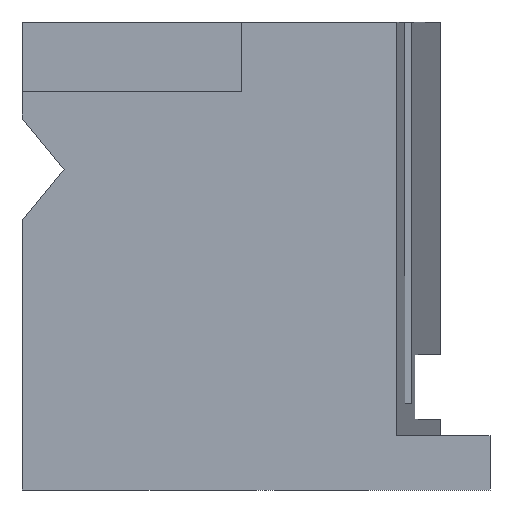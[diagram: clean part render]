
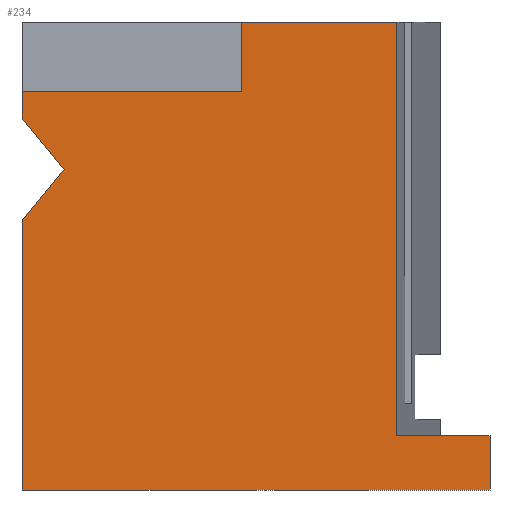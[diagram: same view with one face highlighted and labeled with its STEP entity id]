
A CAD part, left-side view. The second image highlights one B-rep face of the part: STEP entity #234.
In plain terms, the highlighted planar face has unit normal (-1, 0, 0).
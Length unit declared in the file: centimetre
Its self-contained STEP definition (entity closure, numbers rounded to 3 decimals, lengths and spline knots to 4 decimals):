
#30 = CARTESIAN_POINT ( 'NONE',  ( 0., 1000., 0. ) ) ;
#53 = ORIENTED_EDGE ( 'NONE', *, *, #885, .F. ) ;
#63 = CARTESIAN_POINT ( 'NONE',  ( 0., 0., 0. ) ) ;
#72 = CARTESIAN_POINT ( 'NONE',  ( 0., 910.1829, 685.2639 ) ) ;
#84 = VERTEX_POINT ( 'NONE', #400 ) ;
#94 = VERTEX_POINT ( 'NONE', #1166 ) ;
#98 = EDGE_CURVE ( 'NONE', #484, #1099, #314, .T. ) ;
#137 = EDGE_CURVE ( 'NONE', #786, #211, #942, .T. ) ;
#138 = CARTESIAN_POINT ( 'NONE',  ( 0., 530.7815, 852.1744 ) ) ;
#140 = ORIENTED_EDGE ( 'NONE', *, *, #137, .T. ) ;
#156 = DIRECTION ( 'NONE',  ( 0., -1., 0. ) ) ;
#158 = ORIENTED_EDGE ( 'NONE', *, *, #1028, .T. ) ;
#160 = LINE ( 'NONE', #600, #370 ) ;
#193 = CARTESIAN_POINT ( 'NONE',  ( 0., 1000., 1000. ) ) ;
#201 = ORIENTED_EDGE ( 'NONE', *, *, #622, .T. ) ;
#206 = LINE ( 'NONE', #30, #567 ) ;
#211 = VERTEX_POINT ( 'NONE', #375 ) ;
#218 = VERTEX_POINT ( 'NONE', #227 ) ;
#221 = VECTOR ( 'NONE', #475, 100. ) ;
#227 = CARTESIAN_POINT ( 'NONE',  ( 0., 1000., 0. ) ) ;
#234 = ADVANCED_FACE ( 'NONE', ( #1153 ), #1158, .F. ) ;
#244 = DIRECTION ( 'NONE',  ( 0., 0.635, -0.773 ) ) ;
#254 = LINE ( 'NONE', #625, #1007 ) ;
#272 = EDGE_CURVE ( 'NONE', #1156, #94, #1082, .T. ) ;
#281 = CARTESIAN_POINT ( 'NONE',  ( 0., 530.7815, 1000. ) ) ;
#307 = VERTEX_POINT ( 'NONE', #326 ) ;
#312 = LINE ( 'NONE', #316, #651 ) ;
#314 = LINE ( 'NONE', #1154, #1005 ) ;
#316 = CARTESIAN_POINT ( 'NONE',  ( 0., 199.0538, 115.8178 ) ) ;
#323 = LINE ( 'NONE', #621, #890 ) ;
#326 = CARTESIAN_POINT ( 'NONE',  ( 0., 1000., 575.9463 ) ) ;
#338 = VECTOR ( 'NONE', #244, 100. ) ;
#364 = ORIENTED_EDGE ( 'NONE', *, *, #1114, .T. ) ;
#370 = VECTOR ( 'NONE', #532, 100. ) ;
#375 = CARTESIAN_POINT ( 'NONE',  ( 0., 1000., 794.5816 ) ) ;
#390 = DIRECTION ( 'NONE',  ( 0., -1., 0. ) ) ;
#398 = DIRECTION ( 'NONE',  ( 0., 0., 1. ) ) ;
#400 = CARTESIAN_POINT ( 'NONE',  ( 0., 530.7815, 852.1744 ) ) ;
#425 = DIRECTION ( 'NONE',  ( 1., 0., 0. ) ) ;
#432 = DIRECTION ( 'NONE',  ( 0., 0., -1. ) ) ;
#475 = DIRECTION ( 'NONE',  ( 0., 0., -1. ) ) ;
#484 = VERTEX_POINT ( 'NONE', #639 ) ;
#531 = CARTESIAN_POINT ( 'NONE',  ( 0., 1000., 1000. ) ) ;
#532 = DIRECTION ( 'NONE',  ( 0., 1., 0. ) ) ;
#546 = VERTEX_POINT ( 'NONE', #72 ) ;
#562 = ORIENTED_EDGE ( 'NONE', *, *, #863, .F. ) ;
#566 = EDGE_LOOP ( 'NONE', ( #158, #364, #1127, #1043, #740, #562, #924, #1087, #53, #201, #140 ) ) ;
#567 = VECTOR ( 'NONE', #765, 100. ) ;
#589 = LINE ( 'NONE', #138, #861 ) ;
#595 = EDGE_CURVE ( 'NONE', #682, #94, #323, .T. ) ;
#600 = CARTESIAN_POINT ( 'NONE',  ( 0., 530.7815, 852.1744 ) ) ;
#621 = CARTESIAN_POINT ( 'NONE',  ( 0., 199.0538, 115.8178 ) ) ;
#622 = EDGE_CURVE ( 'NONE', #84, #786, #160, .T. ) ;
#625 = CARTESIAN_POINT ( 'NONE',  ( 0., 1000., 1000. ) ) ;
#639 = CARTESIAN_POINT ( 'NONE',  ( 0., 0., 115.8178 ) ) ;
#651 = VECTOR ( 'NONE', #390, 100. ) ;
#668 = VECTOR ( 'NONE', #156, 100. ) ;
#682 = VERTEX_POINT ( 'NONE', #982 ) ;
#703 = CARTESIAN_POINT ( 'NONE',  ( 0., 1000., 575.9463 ) ) ;
#740 = ORIENTED_EDGE ( 'NONE', *, *, #98, .F. ) ;
#765 = DIRECTION ( 'NONE',  ( 0., -1., 0. ) ) ;
#779 = DIRECTION ( 'NONE',  ( 0., 0., -1. ) ) ;
#786 = VERTEX_POINT ( 'NONE', #906 ) ;
#861 = VECTOR ( 'NONE', #398, 100. ) ;
#863 = EDGE_CURVE ( 'NONE', #682, #484, #312, .T. ) ;
#878 = CARTESIAN_POINT ( 'NONE',  ( 0., 910.1829, 685.2639 ) ) ;
#880 = LINE ( 'NONE', #703, #338 ) ;
#885 = EDGE_CURVE ( 'NONE', #84, #1156, #589, .T. ) ;
#890 = VECTOR ( 'NONE', #990, 100. ) ;
#906 = CARTESIAN_POINT ( 'NONE',  ( 0., 1000., 852.1744 ) ) ;
#911 = EDGE_CURVE ( 'NONE', #218, #1099, #206, .T. ) ;
#924 = ORIENTED_EDGE ( 'NONE', *, *, #595, .T. ) ;
#942 = LINE ( 'NONE', #193, #221 ) ;
#982 = CARTESIAN_POINT ( 'NONE',  ( 0., 199.0538, 115.8178 ) ) ;
#990 = DIRECTION ( 'NONE',  ( 0., 0., 1. ) ) ;
#1005 = VECTOR ( 'NONE', #779, 100. ) ;
#1007 = VECTOR ( 'NONE', #1173, 100. ) ;
#1022 = EDGE_CURVE ( 'NONE', #307, #218, #254, .T. ) ;
#1028 = EDGE_CURVE ( 'NONE', #211, #546, #1067, .T. ) ;
#1043 = ORIENTED_EDGE ( 'NONE', *, *, #911, .T. ) ;
#1054 = AXIS2_PLACEMENT_3D ( 'NONE', #1074, #425, #432 ) ;
#1067 = LINE ( 'NONE', #878, #1075 ) ;
#1074 = CARTESIAN_POINT ( 'NONE',  ( 0., 1000., 1000. ) ) ;
#1075 = VECTOR ( 'NONE', #1155, 100. ) ;
#1082 = LINE ( 'NONE', #531, #668 ) ;
#1087 = ORIENTED_EDGE ( 'NONE', *, *, #272, .F. ) ;
#1099 = VERTEX_POINT ( 'NONE', #63 ) ;
#1114 = EDGE_CURVE ( 'NONE', #546, #307, #880, .T. ) ;
#1127 = ORIENTED_EDGE ( 'NONE', *, *, #1022, .T. ) ;
#1153 = FACE_OUTER_BOUND ( 'NONE', #566, .T. ) ;
#1154 = CARTESIAN_POINT ( 'NONE',  ( 0., 0., 1000. ) ) ;
#1155 = DIRECTION ( 'NONE',  ( 0., -0.635, -0.773 ) ) ;
#1156 = VERTEX_POINT ( 'NONE', #281 ) ;
#1158 = PLANE ( 'NONE',  #1054 ) ;
#1166 = CARTESIAN_POINT ( 'NONE',  ( 0., 199.0538, 1000. ) ) ;
#1173 = DIRECTION ( 'NONE',  ( 0., 0., -1. ) ) ;
